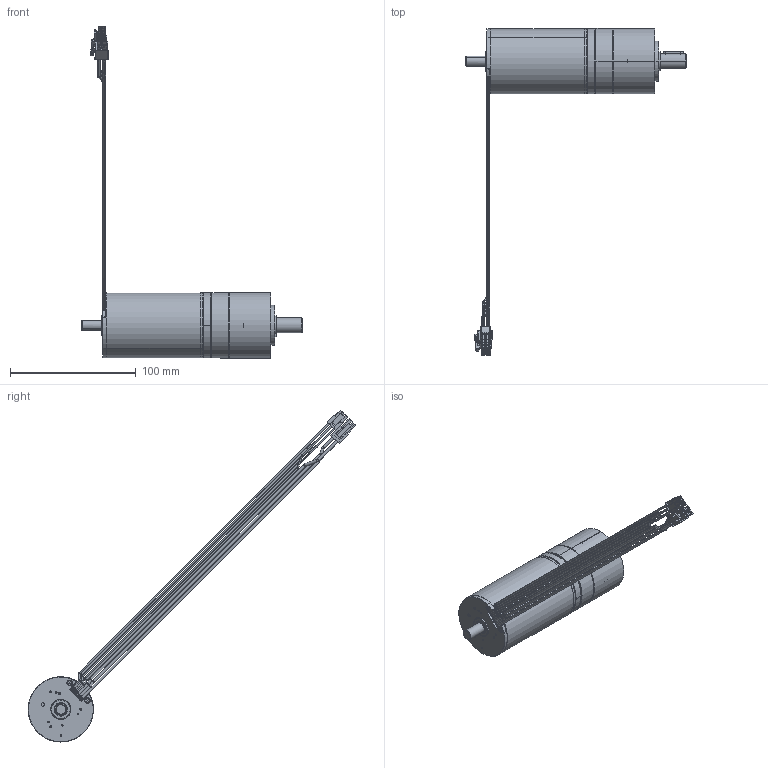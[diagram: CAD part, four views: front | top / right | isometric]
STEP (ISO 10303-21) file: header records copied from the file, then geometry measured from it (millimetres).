
FILE_DESCRIPTION (( 'STEP AP214' ), '1' );
FILE_NAME ('ECI52_+_PM52 - 1etage.STEP', '2016-12-15T15:28:05', ( '' ), ( '' ), 'SwSTEP 2.0', 'SolidWorks 2015', '' );
FILE_SCHEMA (( 'AUTOMOTIVE_DESIGN' ));
Length unit declared in the file: millimetre
Products named in the file (16): 4X4X16_D6885A_3; D471_12X1_5_3; 8102168_ABTRIEB_LK1_KPL_3; GK2152_POS31_2_LAGERBOLZEN_3; 8101171_ABTRIEB_ROHTEIL_AF0_3; DIN998_PS_12X18X1_3; D625-6001-2RS_3; 8006231_LAGERFLANSCH_3; ECI52_+_PM52 - 1etage; eci52; 8003165_MOTORRITZEL_Z17; GK2152_POS3_6_ANLAUFSCHEIBE_1ST_3; MOTORFLANSCH_1248336; SCHRAUBE_1241978_7; 8006230_ZAHNKRANZ_Z46_3; 8006405_DICHTRING_3
Assembly tree (23 placements, depth 3):
  ECI52_+_PM52 - 1etage
    8006231_LAGERFLANSCH_3
    D625-6001-2RS_3  x2
    DIN998_PS_12X18X1_3  x2
    8102168_ABTRIEB_LK1_KPL_3
      8101171_ABTRIEB_ROHTEIL_AF0_3
      GK2152_POS31_2_LAGERBOLZEN_3  x3
    D471_12X1_5_3
    4X4X16_D6885A_3
    8006405_DICHTRING_3  x2
    8006230_ZAHNKRANZ_Z46_3
    SCHRAUBE_1241978_7  x4
    MOTORFLANSCH_1248336
    GK2152_POS3_6_ANLAUFSCHEIBE_1ST_3
    8003165_MOTORRITZEL_Z17
    eci52
Bounding box: 175.9 x 261.02 x 264.54 mm (x, y, z)
Volume: 201820.6 mm3; surface area: 92546.6 mm2
Topology: 19 solids, 41 shells, 1518 faces, 3924 edges, 2486 vertices
Faces by surface type: plane 668, cylinder 558, cone 155, bspline 89, torus 48
Entity records: 77910 total; most frequent: CARTESIAN_POINT 30034, DIRECTION 7209, ORIENTED_EDGE 7172, EDGE_CURVE 3606, AXIS2_PLACEMENT_3D 2542, VERTEX_POINT 2308, VECTOR 2125, LINE 2125
